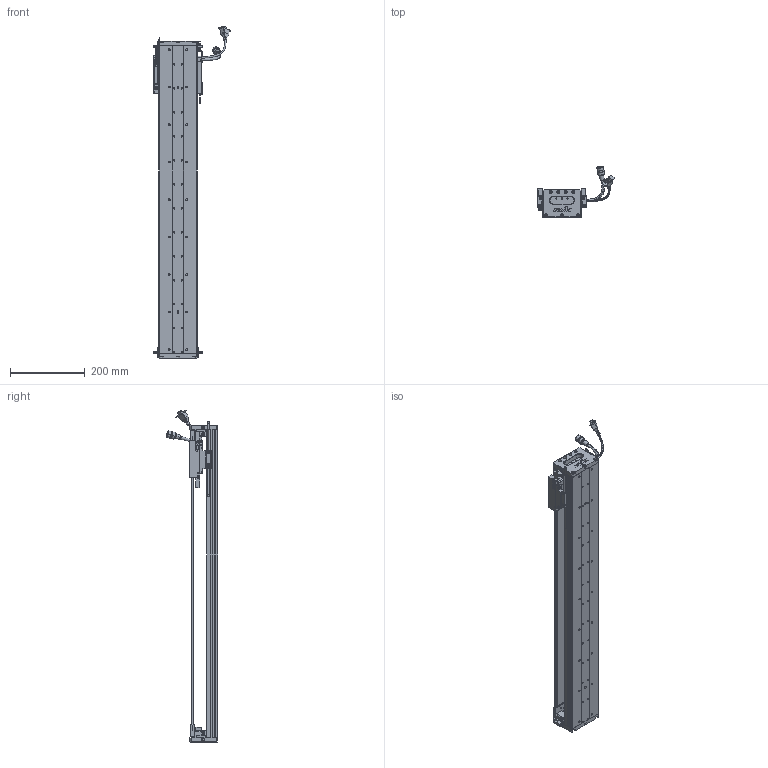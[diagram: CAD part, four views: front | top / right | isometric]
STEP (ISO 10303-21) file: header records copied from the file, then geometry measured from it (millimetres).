
FILE_DESCRIPTION (( 'STEP AP203' ), '1' );
FILE_NAME ('Z1-RY100D-1-L500-B-K.SLDASM_0650.step', '2021-05-17T01:40:30', ( '盈信电脑' ), ( '东莞市道滘镇水果街19号' ), 'SwSTEP 2.0', 'SolidWorks 2016', '' );
FILE_SCHEMA (( 'CONFIG_CONTROL_DESIGN' ));
Length unit declared in the file: millimetre
Products named in the file (36): Z1-RY100D-500-倰第菁釱_0650; 榋妏寠巭燃_暯_M2_2; PBU_SHEET; Z-RY100D詩湍奻揤裔; SCREW-M1.6-1; Z1-RY100-L500詩湍90mm遵_0650; PSLH080_PSLF2; Z1-RY100D-1-L500-B-K.SLDASM_0650; LABEL; SCREW-M1.7-1; LABEL-Part-1; SEAL-Part-1; 100-Z-臏賑輸盄裔(21遴); COVER-Part-1; HOLDER0; SCREW-M1.6-3; SCREW-M1.6; SHIELDPLATE; HARNESS-Part-2; Z1-RY100铝滑块（21款）; 覜茼ん672; SEAL; SCALE-Part-2; HARNESS-Part-1; COVER; SCALE; SCALE-Part-1; 140雄赽晤鎢ん堤盄; SCREW-M1.6-2; SCREW-M1.7; 140蚥薯蝶輸; Z-RY100D詩湍狟揤裔; Z-RY100D覜茼んえ; 080黍杅芛假蚾釱21遴; HARNESS; Z-100詩湍傷裔啣
Assembly tree (44 placements, depth 4):
  Z1-RY100D-1-L500-B-K.SLDASM_0650
    Z1-RY100D-500-倰第菁釱_0650
    Z1-RY100铝滑块（21款）
    PSLH080_PSLF2
      SCALE
        SCALE-Part-1
        SCALE-Part-2
      HARNESS
        HARNESS-Part-1
        HARNESS-Part-2
      LABEL
        LABEL-Part-1
      COVER
        COVER-Part-1
      SEAL
        SEAL-Part-1
      榋妏寠巭燃_暯_M2_2
      SHIELDPLATE
      SCREW-M1.7
      SCREW-M1.7-1
      PBU_SHEET
      SCREW-M1.6
      SCREW-M1.6-1
      SCREW-M1.6-2
      SCREW-M1.6-3
      HOLDER0
    080黍杅芛假蚾釱21遴
    Z-100詩湍傷裔啣  x2
    140蚥薯蝶輸  x2
    覜茼ん672  x4
    Z-RY100D覜茼んえ  x3
    100-Z-臏賑輸盄裔(21遴)
    140雄赽晤鎢ん堤盄
    Z1-RY100-L500詩湍90mm遵_0650
    Z-RY100D詩湍狟揤裔  x2
    Z-RY100D詩湍奻揤裔  x2
Bounding box: 205.84 x 136.11 x 885.43 mm (x, y, z)
Volume: 1829465.6 mm3; surface area: 718250.7 mm2
Topology: 39 solids, 39 shells, 2542 faces, 6649 edges, 4216 vertices
Faces by surface type: plane 1168, cylinder 1042, cone 210, torus 69, bspline 53
Entity records: 65869 total; most frequent: CARTESIAN_POINT 13977, DIRECTION 10323, ORIENTED_EDGE 9730, EDGE_CURVE 4865, AXIS2_PLACEMENT_3D 3758, VERTEX_POINT 3124, LINE 2807, VECTOR 2807
